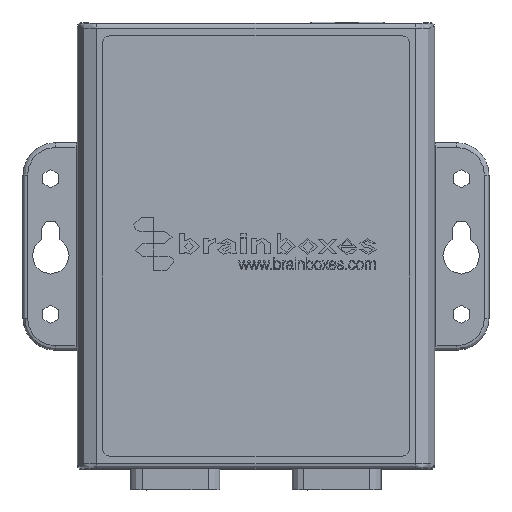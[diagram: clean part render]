
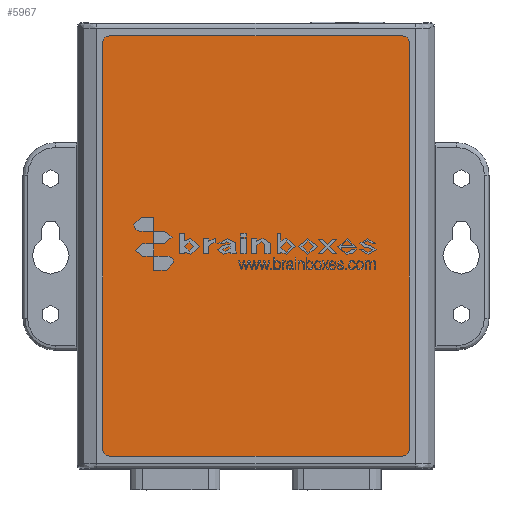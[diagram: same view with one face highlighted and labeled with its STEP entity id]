
A CAD part, top view. The second image highlights one B-rep face of the part: STEP entity #5967.
In plain terms, the highlighted planar face has unit normal (0, 0, 1) as drawn and (0, 1, 0) by its records, which use the part's own axes.
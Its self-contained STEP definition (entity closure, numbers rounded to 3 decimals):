
#5967=ADVANCED_FACE('',(#16151),#16152,.T.);
#16151=FACE_OUTER_BOUND('',#30916,.T.);
#16152=PLANE('',#30917);
#30916=EDGE_LOOP('',(#51789,#51790,#51791,#51792,#51793,#51794,#51795,#51796));
#30917=AXIS2_PLACEMENT_3D('',#51797,#51798,#51799);
#51789=ORIENTED_EDGE('',*,*,#94506,.T.);
#51790=ORIENTED_EDGE('',*,*,#94527,.T.);
#51791=ORIENTED_EDGE('',*,*,#94524,.T.);
#51792=ORIENTED_EDGE('',*,*,#94521,.T.);
#51793=ORIENTED_EDGE('',*,*,#94518,.T.);
#51794=ORIENTED_EDGE('',*,*,#94515,.T.);
#51795=ORIENTED_EDGE('',*,*,#94512,.T.);
#51796=ORIENTED_EDGE('',*,*,#94509,.T.);
#51797=CARTESIAN_POINT('',(-31.75,-0.5,44.05));
#51798=DIRECTION('',(0.0,1.0,0.0));
#51799=DIRECTION('',(1.0,0.0,-0.0));
#94506=EDGE_CURVE('',#111858,#111856,#111859,.T.);
#94509=EDGE_CURVE('',#111862,#111858,#111863,.T.);
#94512=EDGE_CURVE('',#111866,#111862,#111867,.T.);
#94515=EDGE_CURVE('',#111870,#111866,#111871,.T.);
#94518=EDGE_CURVE('',#111874,#111870,#111875,.T.);
#94521=EDGE_CURVE('',#111878,#111874,#111879,.T.);
#94524=EDGE_CURVE('',#111882,#111878,#111883,.T.);
#94527=EDGE_CURVE('',#111856,#111882,#111886,.T.);
#111856=VERTEX_POINT('',#137216);
#111858=VERTEX_POINT('',#137219);
#111859=CIRCLE('',#137220,1.5);
#111862=VERTEX_POINT('',#137224);
#111863=LINE('',#137225,#137226);
#111866=VERTEX_POINT('',#137230);
#111867=CIRCLE('',#137231,1.5);
#111870=VERTEX_POINT('',#137235);
#111871=LINE('',#137236,#137237);
#111874=VERTEX_POINT('',#137241);
#111875=CIRCLE('',#137242,1.5);
#111878=VERTEX_POINT('',#137246);
#111879=LINE('',#137247,#137248);
#111882=VERTEX_POINT('',#137252);
#111883=CIRCLE('',#137253,1.5);
#111886=LINE('',#137257,#137258);
#137216=CARTESIAN_POINT('',(-31.75,-0.5,45.55));
#137219=CARTESIAN_POINT('',(-33.25,-0.5,44.05));
#137220=AXIS2_PLACEMENT_3D('',#175510,#175511,#175512);
#137224=CARTESIAN_POINT('',(-33.25,-0.5,-44.05));
#137225=CARTESIAN_POINT('',(-33.25,-0.5,-44.05));
#137226=VECTOR('',#175514,1.0);
#137230=CARTESIAN_POINT('',(-31.75,-0.5,-45.55));
#137231=AXIS2_PLACEMENT_3D('',#175516,#175517,#175518);
#137235=CARTESIAN_POINT('',(31.75,-0.5,-45.55));
#137236=CARTESIAN_POINT('',(-31.75,-0.5,-45.55));
#137237=VECTOR('',#175520,1.0);
#137241=CARTESIAN_POINT('',(33.25,-0.5,-44.05));
#137242=AXIS2_PLACEMENT_3D('',#175522,#175523,#175524);
#137246=CARTESIAN_POINT('',(33.25,-0.5,44.05));
#137247=CARTESIAN_POINT('',(33.25,-0.5,-44.05));
#137248=VECTOR('',#175526,1.0);
#137252=CARTESIAN_POINT('',(31.75,-0.5,45.55));
#137253=AXIS2_PLACEMENT_3D('',#175528,#175529,#175530);
#137257=CARTESIAN_POINT('',(-31.75,-0.5,45.55));
#137258=VECTOR('',#175532,1.0);
#175510=CARTESIAN_POINT('',(-31.75,-0.5,44.05));
#175511=DIRECTION('',(0.0,1.0,0.0));
#175512=DIRECTION('',(0.0,-0.0,1.0));
#175514=DIRECTION('',(0.,0.0,1.0));
#175516=CARTESIAN_POINT('',(-31.75,-0.5,-44.05));
#175517=DIRECTION('',(0.0,1.0,0.0));
#175518=DIRECTION('',(0.0,0.0,-1.0));
#175520=DIRECTION('',(-1.0,0.0,0.0));
#175522=CARTESIAN_POINT('',(31.75,-0.5,-44.05));
#175523=DIRECTION('',(0.0,1.0,0.0));
#175524=DIRECTION('',(0.0,-0.0,1.0));
#175526=DIRECTION('',(0.,0.0,-1.0));
#175528=CARTESIAN_POINT('',(31.75,-0.5,44.05));
#175529=DIRECTION('',(0.0,1.0,0.0));
#175530=DIRECTION('',(0.0,-0.0,1.0));
#175532=DIRECTION('',(1.0,0.0,0.0));
